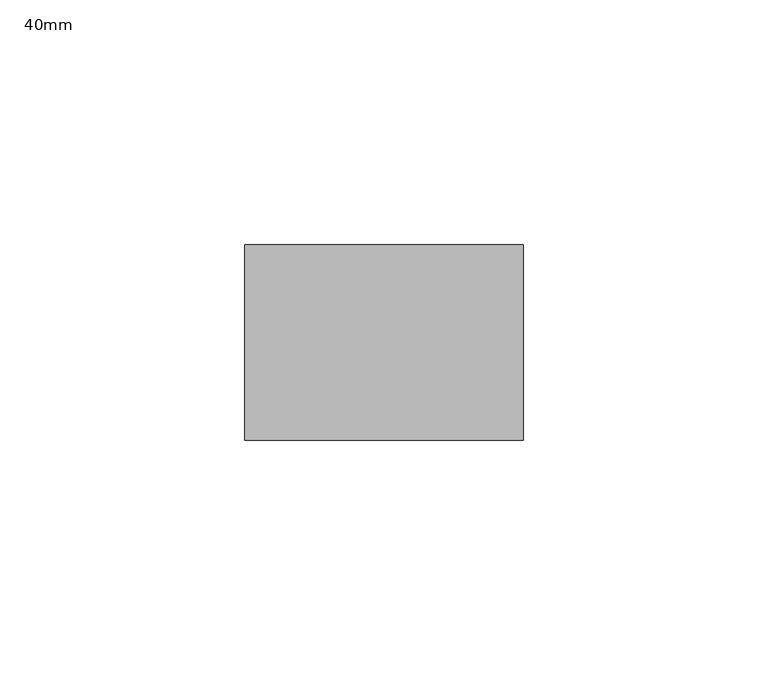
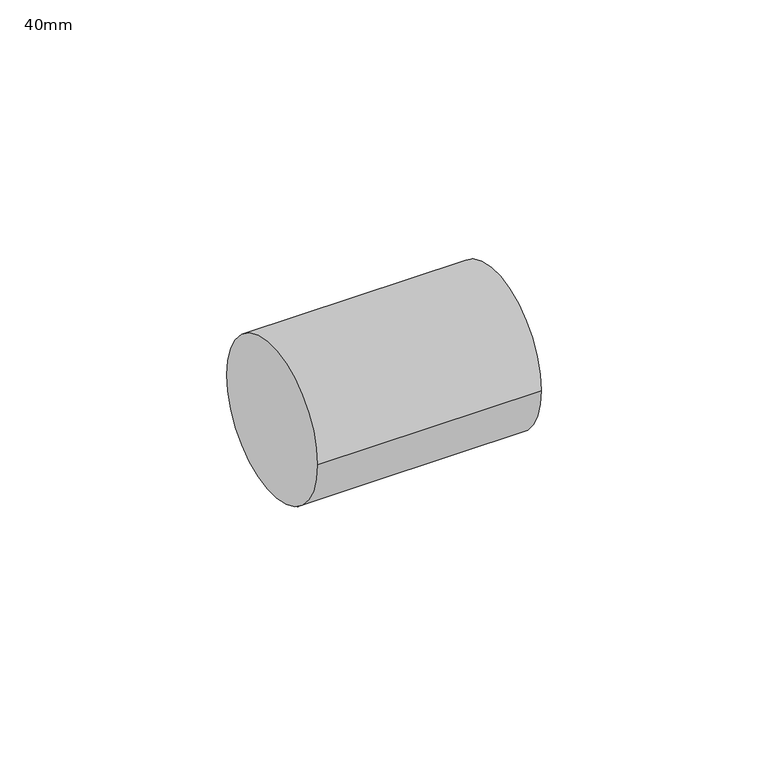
"""IFC4 building model written with IfcOpenShell, lengths in millimetres: pipe fitting geometry, PipeFitting_HTA_CPVC_PlainNipples : 40mm."""

from ifc_helpers import new_model, si_unit, point, frame, origin, origin_2d, place, context, project, spatial, circle_curve, trimmed, segment, composite_curve, outline, extrude, source, transform, mapped, element, save


def pipe_fitting_40mm_27129087(model_context):
    return source(origin(), model_context, "Body", "SweptSolid", [
        extrude(outline(composite_curve([segment(trimmed(circle_curve(origin_2d(), 20.0), [point((-20.0, 0.0))], [point((20.0, 0.0))], False, "CARTESIAN"), True, "CONTINUOUS"), segment(trimmed(circle_curve(origin_2d(), 20.0), [point((20.0, 0.0))], [point((-20.0, 0.0))], False, "CARTESIAN"), True, "CONTINUOUS")], self_intersect=False)), frame((-28.5, 0.0, 0.0), z_axis=(1.0, 0.0, 0.0), x_axis=(0.0, 1.0, 0.0)), (0.0, 0.0, 1.0), 57.0),
    ])


if __name__ == "__main__":
    model = new_model("IFC4")
    model_context = context("Model", 3, world=origin())
    ifc_project = project(units=[si_unit("LENGTHUNIT", "METRE", prefix="MILLI")], contexts=[model_context])
    site = spatial("IfcSite", under=ifc_project)
    building = spatial("IfcBuilding", under=site)
    placement = place(None, origin())
    pipe_fitting_40mm_shape = pipe_fitting_40mm_27129087(model_context)
    element("IfcPipeFitting", 1, ObjectType="PipeFitting_HTA_CPVC_PlainNipples : 40mm", at=placement, inside=building, context=model_context, shape_type="MappedRepresentation", body=[
        mapped(pipe_fitting_40mm_shape, transform((0.0, 0.0, 0.0), x_axis=(1.0, 0.0, 0.0), y_axis=(0.0, 1.0, 0.0), z_axis=(0.0, 0.0, 1.0))),
    ])
    save(model, "model.ifc")
